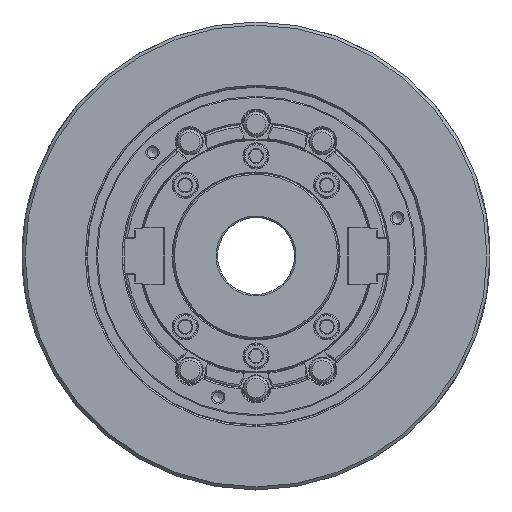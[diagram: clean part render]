
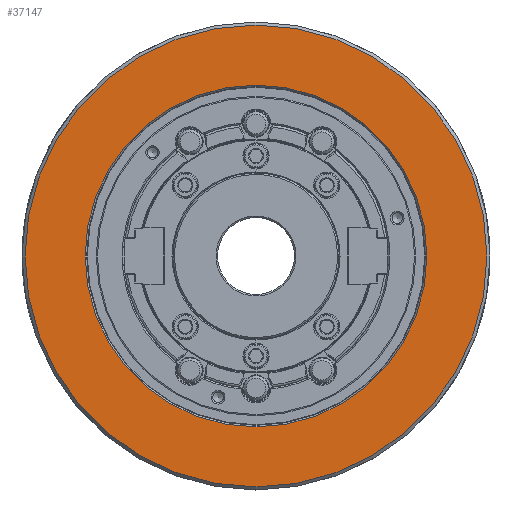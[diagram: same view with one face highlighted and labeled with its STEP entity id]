
A CAD part, left-side view. The second image highlights one B-rep face of the part: STEP entity #37147.
In plain terms, the highlighted planar face has unit normal (-1, 0, 0).
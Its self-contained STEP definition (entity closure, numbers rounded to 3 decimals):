
#626 = DIRECTION ( 'NONE',  ( -1., 0., 0. ) ) ;
#1843 = CARTESIAN_POINT ( 'NONE',  ( -110., 150., 0. ) ) ;
#8130 = DIRECTION ( 'NONE',  ( -1., 0., 0. ) ) ;
#15573 = EDGE_LOOP ( 'NONE', ( #31869 ) ) ;
#18405 = FACE_BOUND ( 'NONE', #15573, .T. ) ;
#22277 = AXIS2_PLACEMENT_3D ( 'NONE', #48776, #8130, #40766 ) ;
#23920 = ORIENTED_EDGE ( 'NONE', *, *, #92117, .T. ) ;
#24078 = AXIS2_PLACEMENT_3D ( 'NONE', #48236, #626, #24675 ) ;
#24675 = DIRECTION ( 'NONE',  ( 0., 0., 1. ) ) ;
#26543 = CARTESIAN_POINT ( 'NONE',  ( -110., 0., 150. ) ) ;
#31869 = ORIENTED_EDGE ( 'NONE', *, *, #88748, .F. ) ;
#33516 = CARTESIAN_POINT ( 'NONE',  ( -110., 0., 111. ) ) ;
#36244 = AXIS2_PLACEMENT_3D ( 'NONE', #1843, #83182, #59628 ) ;
#37147 = ADVANCED_FACE ( 'NONE', ( #18405, #50488 ), #83729, .F. ) ;
#37679 = CIRCLE ( 'NONE', #22277, 111. ) ;
#40766 = DIRECTION ( 'NONE',  ( 0., 0., 1. ) ) ;
#43661 = VERTEX_POINT ( 'NONE', #33516 ) ;
#48236 = CARTESIAN_POINT ( 'NONE',  ( -110., 0., 0. ) ) ;
#48776 = CARTESIAN_POINT ( 'NONE',  ( -110., 0., 0. ) ) ;
#50488 = FACE_OUTER_BOUND ( 'NONE', #56613, .T. ) ;
#56613 = EDGE_LOOP ( 'NONE', ( #23920 ) ) ;
#59628 = DIRECTION ( 'NONE',  ( 0., 0., -1. ) ) ;
#70265 = CIRCLE ( 'NONE', #24078, 150. ) ;
#75311 = VERTEX_POINT ( 'NONE', #26543 ) ;
#83182 = DIRECTION ( 'NONE',  ( 1., 0., 0. ) ) ;
#83729 = PLANE ( 'NONE',  #36244 ) ;
#88748 = EDGE_CURVE ( 'NONE', #43661, #43661, #37679, .T. ) ;
#92117 = EDGE_CURVE ( 'NONE', #75311, #75311, #70265, .T. ) ;
